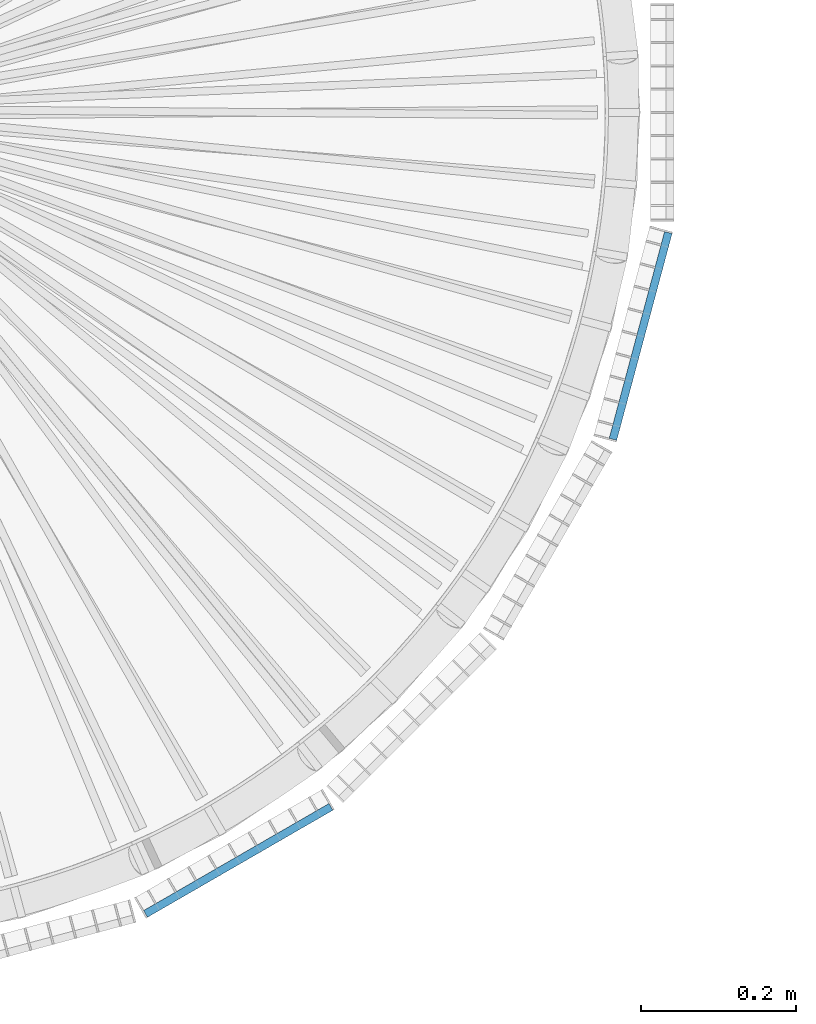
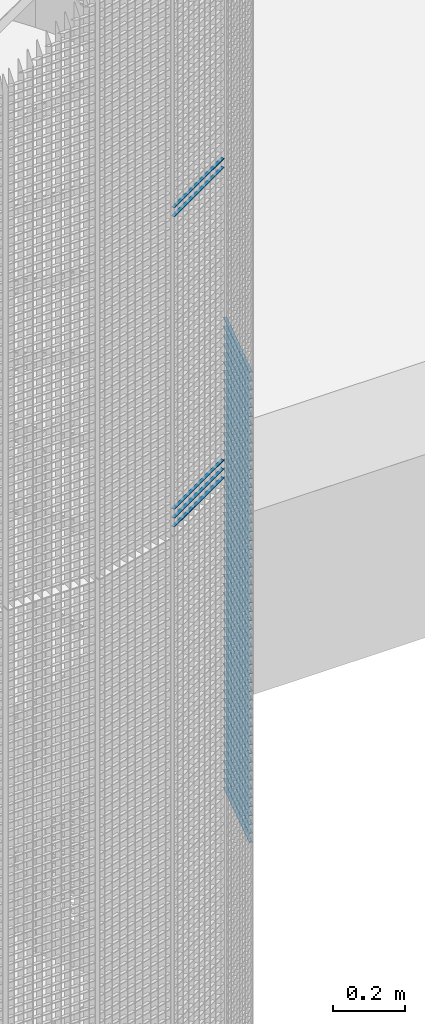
# One storey, part 250 of 1183: 59 beams, 2 elements without a shape of their own.
"""IFC2X3 building model written with IfcOpenShell, lengths in millimetres."""

from ifc_helpers import new_model, si_unit, frame, origin_with_axes, origin_2d_with_axis, place, context, subcontext, project, spatial, rectangle, extrude, material, type_object, element, aggregate, save


model = new_model("IFC2X3")

# Units and contexts
model_context = context("Model", 3, precision=1e-05, world=origin_with_axes())
body_context = subcontext(model_context, "Body", "Model", "MODEL_VIEW")
ifc_project = project(units=[si_unit("LENGTHUNIT", "METRE", prefix="MILLI"), si_unit("AREAUNIT", "SQUARE_METRE"), si_unit("VOLUMEUNIT", "CUBIC_METRE"), si_unit("MASSUNIT", "GRAM", prefix="KILO"), si_unit("TIMEUNIT", "SECOND"), si_unit("PLANEANGLEUNIT", "RADIAN"), si_unit("SOLIDANGLEUNIT", "STERADIAN"), si_unit("THERMODYNAMICTEMPERATUREUNIT", "DEGREE_CELSIUS"), si_unit("LUMINOUSINTENSITYUNIT", "LUMEN")], contexts=[model_context])

# Site, building, storey
site_placement = place(None, origin_with_axes())
site = spatial("IfcSite", under=ifc_project, at=site_placement, Name="Undefined", CompositionType="ELEMENT")
building_placement = place(site_placement, origin_with_axes())
building = spatial("IfcBuilding", under=site, at=building_placement, Name="Undefined", CompositionType="ELEMENT")
storey_placement = place(building_placement, origin_with_axes())
storey = spatial("IfcBuildingStorey", under=building, at=storey_placement, Name="Undefined", CompositionType="ELEMENT", Elevation=0.0)

# Assembly, beams
assembly_1_placement = place(storey_placement, origin_with_axes())
assembly_1 = element("IfcElementAssembly", 1, at=assembly_1_placement, inside=storey, Name="BORDURE", AssemblyPlace="NOTDEFINED", PredefinedType="NOTDEFINED")
ifc_material = material(Name="STEEL/S235JR")
beam_type = type_object("IfcBeamType", Name="PL2*10", PredefinedType="NOTDEFINED")
beam_1_placement = place(assembly_1_placement, frame((437.231955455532, -1033.29996828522, 10080.0), z_axis=(0.499999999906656, -0.866025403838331, 0.0), x_axis=(0.866025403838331, 0.499999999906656, 0.0)))
beam_1 = element("IfcBeam", 2, at=beam_1_placement, type_object=beam_type, material=ifc_material, Name="ENTRETOISE", context=body_context, shape_type="SweptSolid", body=[
    extrude(rectangle(XDim=2.0, YDim=10.0, at=origin_2d_with_axis()), frame((275.999999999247, 9.09494701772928e-13, 1.53210777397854e-14), z_axis=(-1.0, 0.0, 0.0), x_axis=(0.0, -1.0, 0.0)), (0.0, 0.0, 1.0), 276.0),
])
beam_2_placement = place(assembly_1_placement, frame((437.231955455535, -1033.29996828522, 9090.0), z_axis=(0.499999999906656, -0.866025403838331, 0.0), x_axis=(0.866025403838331, 0.499999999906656, 0.0)))
beam_2 = element("IfcBeam", 3, at=beam_2_placement, type_object=beam_type, material=ifc_material, Name="ENTRETOISE", context=body_context, shape_type="SweptSolid", body=[
    extrude(rectangle(XDim=2.0, YDim=10.0, at=origin_2d_with_axis()), frame((275.999999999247, 9.09494701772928e-13, 1.53210777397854e-14), z_axis=(-1.0, 0.0, 0.0), x_axis=(0.0, -1.0, 0.0)), (0.0, 0.0, 1.0), 276.0),
])
beam_3_placement = place(assembly_1_placement, frame((437.231955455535, -1033.29996828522, 9060.0), z_axis=(0.499999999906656, -0.866025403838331, 0.0), x_axis=(0.866025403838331, 0.499999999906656, 0.0)))
beam_3 = element("IfcBeam", 4, at=beam_3_placement, type_object=beam_type, material=ifc_material, Name="ENTRETOISE", context=body_context, shape_type="SweptSolid", body=[
    extrude(rectangle(XDim=2.0, YDim=10.0, at=origin_2d_with_axis()), frame((275.999999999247, 9.09494701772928e-13, 1.53210777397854e-14), z_axis=(-1.0, 0.0, 0.0), x_axis=(0.0, -1.0, 0.0)), (0.0, 0.0, 1.0), 276.0),
])
beam_4_placement = place(assembly_1_placement, frame((437.231955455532, -1033.29996828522, 10110.0), z_axis=(0.499999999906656, -0.866025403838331, 0.0), x_axis=(0.866025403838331, 0.499999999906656, 0.0)))
beam_4 = element("IfcBeam", 5, at=beam_4_placement, type_object=beam_type, material=ifc_material, Name="ENTRETOISE", context=body_context, shape_type="SweptSolid", body=[
    extrude(rectangle(XDim=2.0, YDim=10.0, at=origin_2d_with_axis()), frame((275.999999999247, 9.09494701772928e-13, 1.53210777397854e-14), z_axis=(-1.0, 0.0, 0.0), x_axis=(0.0, -1.0, 0.0)), (0.0, 0.0, 1.0), 276.0),
])
beam_5_placement = place(assembly_1_placement, frame((437.231955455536, -1033.29996828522, 9030.0), z_axis=(0.499999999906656, -0.866025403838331, 0.0), x_axis=(0.866025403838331, 0.499999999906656, 0.0)))
beam_5 = element("IfcBeam", 6, at=beam_5_placement, type_object=beam_type, material=ifc_material, Name="ENTRETOISE", context=body_context, shape_type="SweptSolid", body=[
    extrude(rectangle(XDim=2.0, YDim=10.0, at=origin_2d_with_axis()), frame((275.999999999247, 9.09494701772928e-13, 1.53210777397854e-14), z_axis=(-1.0, 0.0, 0.0), x_axis=(0.0, -1.0, 0.0)), (0.0, 0.0, 1.0), 276.0),
])
aggregate(assembly_1, [beam_1, beam_2, beam_3, beam_4, beam_5])

assembly_2_placement = place(storey_placement, origin_with_axes())
assembly_2 = element("IfcElementAssembly", 7, at=assembly_2_placement, inside=storey, Name="BORDURE", AssemblyPlace="NOTDEFINED", PredefinedType="NOTDEFINED")
beam_6_placement = place(assembly_2_placement, frame((1039.82309522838, -421.483733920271, 8970.0), z_axis=(0.965925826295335, -0.258819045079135, 0.0), x_axis=(0.258819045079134, 0.965925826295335, 0.0)))
beam_6 = element("IfcBeam", 8, at=beam_6_placement, type_object=beam_type, material=ifc_material, Name="ENTRETOISE", context=body_context, shape_type="SweptSolid", body=[
    extrude(rectangle(XDim=2.0, YDim=10.0, at=origin_2d_with_axis()), frame((275.999999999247, 9.09494701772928e-13, 1.53210777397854e-14), z_axis=(-1.0, 0.0, 0.0), x_axis=(0.0, -1.0, 0.0)), (0.0, 0.0, 1.0), 276.0),
])
beam_7_placement = place(assembly_2_placement, frame((1039.82309522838, -421.483733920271, 8940.0), z_axis=(0.965925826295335, -0.258819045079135, 0.0), x_axis=(0.258819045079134, 0.965925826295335, 0.0)))
beam_7 = element("IfcBeam", 9, at=beam_7_placement, type_object=beam_type, material=ifc_material, Name="ENTRETOISE", context=body_context, shape_type="SweptSolid", body=[
    extrude(rectangle(XDim=2.0, YDim=10.0, at=origin_2d_with_axis()), frame((275.999999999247, 9.09494701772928e-13, 1.53210777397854e-14), z_axis=(-1.0, 0.0, 0.0), x_axis=(0.0, -1.0, 0.0)), (0.0, 0.0, 1.0), 276.0),
])
beam_8_placement = place(assembly_2_placement, frame((1039.82309522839, -421.483733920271, 8910.0), z_axis=(0.965925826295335, -0.258819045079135, 0.0), x_axis=(0.258819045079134, 0.965925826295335, 0.0)))
beam_8 = element("IfcBeam", 10, at=beam_8_placement, type_object=beam_type, material=ifc_material, Name="ENTRETOISE", context=body_context, shape_type="SweptSolid", body=[
    extrude(rectangle(XDim=2.0, YDim=10.0, at=origin_2d_with_axis()), frame((275.999999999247, 9.09494701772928e-13, 1.53210777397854e-14), z_axis=(-1.0, 0.0, 0.0), x_axis=(0.0, -1.0, 0.0)), (0.0, 0.0, 1.0), 276.0),
])
beam_9_placement = place(assembly_2_placement, frame((1039.82309522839, -421.483733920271, 8880.0), z_axis=(0.965925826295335, -0.258819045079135, 0.0), x_axis=(0.258819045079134, 0.965925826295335, 0.0)))
beam_9 = element("IfcBeam", 11, at=beam_9_placement, type_object=beam_type, material=ifc_material, Name="ENTRETOISE", context=body_context, shape_type="SweptSolid", body=[
    extrude(rectangle(XDim=2.0, YDim=10.0, at=origin_2d_with_axis()), frame((275.999999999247, 9.09494701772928e-13, 1.53210777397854e-14), z_axis=(-1.0, 0.0, 0.0), x_axis=(0.0, -1.0, 0.0)), (0.0, 0.0, 1.0), 276.0),
])
beam_10_placement = place(assembly_2_placement, frame((1039.82309522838, -421.483733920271, 8850.0), z_axis=(0.965925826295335, -0.258819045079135, 0.0), x_axis=(0.258819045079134, 0.965925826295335, 0.0)))
beam_10 = element("IfcBeam", 12, at=beam_10_placement, type_object=beam_type, material=ifc_material, Name="ENTRETOISE", context=body_context, shape_type="SweptSolid", body=[
    extrude(rectangle(XDim=2.0, YDim=10.0, at=origin_2d_with_axis()), frame((275.999999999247, 9.09494701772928e-13, 1.53210777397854e-14), z_axis=(-1.0, 0.0, 0.0), x_axis=(0.0, -1.0, 0.0)), (0.0, 0.0, 1.0), 276.0),
])
beam_11_placement = place(assembly_2_placement, frame((1039.82309522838, -421.483733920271, 8820.0), z_axis=(0.965925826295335, -0.258819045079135, 0.0), x_axis=(0.258819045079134, 0.965925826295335, 0.0)))
beam_11 = element("IfcBeam", 13, at=beam_11_placement, type_object=beam_type, material=ifc_material, Name="ENTRETOISE", context=body_context, shape_type="SweptSolid", body=[
    extrude(rectangle(XDim=2.0, YDim=10.0, at=origin_2d_with_axis()), frame((275.999999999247, 9.09494701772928e-13, 1.53210777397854e-14), z_axis=(-1.0, 0.0, 0.0), x_axis=(0.0, -1.0, 0.0)), (0.0, 0.0, 1.0), 276.0),
])
beam_12_placement = place(assembly_2_placement, frame((1039.82309522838, -421.483733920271, 8790.0), z_axis=(0.965925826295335, -0.258819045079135, 0.0), x_axis=(0.258819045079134, 0.965925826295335, 0.0)))
beam_12 = element("IfcBeam", 14, at=beam_12_placement, type_object=beam_type, material=ifc_material, Name="ENTRETOISE", context=body_context, shape_type="SweptSolid", body=[
    extrude(rectangle(XDim=2.0, YDim=10.0, at=origin_2d_with_axis()), frame((275.999999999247, 9.09494701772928e-13, 1.53210777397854e-14), z_axis=(-1.0, 0.0, 0.0), x_axis=(0.0, -1.0, 0.0)), (0.0, 0.0, 1.0), 276.0),
])
beam_13_placement = place(assembly_2_placement, frame((1039.82309522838, -421.483733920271, 8760.0), z_axis=(0.965925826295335, -0.258819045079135, 0.0), x_axis=(0.258819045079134, 0.965925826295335, 0.0)))
beam_13 = element("IfcBeam", 15, at=beam_13_placement, type_object=beam_type, material=ifc_material, Name="ENTRETOISE", context=body_context, shape_type="SweptSolid", body=[
    extrude(rectangle(XDim=2.0, YDim=10.0, at=origin_2d_with_axis()), frame((275.999999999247, 9.09494701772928e-13, 1.53210777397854e-14), z_axis=(-1.0, 0.0, 0.0), x_axis=(0.0, -1.0, 0.0)), (0.0, 0.0, 1.0), 276.0),
])
beam_14_placement = place(assembly_2_placement, frame((1039.82309522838, -421.48373392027, 8730.0), z_axis=(0.965925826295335, -0.258819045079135, 0.0), x_axis=(0.258819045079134, 0.965925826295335, 0.0)))
beam_14 = element("IfcBeam", 16, at=beam_14_placement, type_object=beam_type, material=ifc_material, Name="ENTRETOISE", context=body_context, shape_type="SweptSolid", body=[
    extrude(rectangle(XDim=2.0, YDim=10.0, at=origin_2d_with_axis()), frame((275.999999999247, 9.09494701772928e-13, 1.53210777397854e-14), z_axis=(-1.0, 0.0, 0.0), x_axis=(0.0, -1.0, 0.0)), (0.0, 0.0, 1.0), 276.0),
])
beam_15_placement = place(assembly_2_placement, frame((1039.82309522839, -421.48373392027, 8700.0), z_axis=(0.965925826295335, -0.258819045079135, 0.0), x_axis=(0.258819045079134, 0.965925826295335, 0.0)))
beam_15 = element("IfcBeam", 17, at=beam_15_placement, type_object=beam_type, material=ifc_material, Name="ENTRETOISE", context=body_context, shape_type="SweptSolid", body=[
    extrude(rectangle(XDim=2.0, YDim=10.0, at=origin_2d_with_axis()), frame((275.999999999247, 9.09494701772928e-13, 1.53210777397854e-14), z_axis=(-1.0, 0.0, 0.0), x_axis=(0.0, -1.0, 0.0)), (0.0, 0.0, 1.0), 276.0),
])
beam_16_placement = place(assembly_2_placement, frame((1039.82309522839, -421.48373392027, 8670.0), z_axis=(0.965925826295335, -0.258819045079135, 0.0), x_axis=(0.258819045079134, 0.965925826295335, 0.0)))
beam_16 = element("IfcBeam", 18, at=beam_16_placement, type_object=beam_type, material=ifc_material, Name="ENTRETOISE", context=body_context, shape_type="SweptSolid", body=[
    extrude(rectangle(XDim=2.0, YDim=10.0, at=origin_2d_with_axis()), frame((275.999999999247, 9.09494701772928e-13, 1.53210777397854e-14), z_axis=(-1.0, 0.0, 0.0), x_axis=(0.0, -1.0, 0.0)), (0.0, 0.0, 1.0), 276.0),
])
beam_17_placement = place(assembly_2_placement, frame((1039.82309522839, -421.48373392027, 8640.0), z_axis=(0.965925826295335, -0.258819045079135, 0.0), x_axis=(0.258819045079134, 0.965925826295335, 0.0)))
beam_17 = element("IfcBeam", 19, at=beam_17_placement, type_object=beam_type, material=ifc_material, Name="ENTRETOISE", context=body_context, shape_type="SweptSolid", body=[
    extrude(rectangle(XDim=2.0, YDim=10.0, at=origin_2d_with_axis()), frame((275.999999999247, 9.09494701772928e-13, 1.53210777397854e-14), z_axis=(-1.0, 0.0, 0.0), x_axis=(0.0, -1.0, 0.0)), (0.0, 0.0, 1.0), 276.0),
])
beam_18_placement = place(assembly_2_placement, frame((1039.82309522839, -421.48373392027, 8610.0), z_axis=(0.965925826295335, -0.258819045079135, 0.0), x_axis=(0.258819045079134, 0.965925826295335, 0.0)))
beam_18 = element("IfcBeam", 20, at=beam_18_placement, type_object=beam_type, material=ifc_material, Name="ENTRETOISE", context=body_context, shape_type="SweptSolid", body=[
    extrude(rectangle(XDim=2.0, YDim=10.0, at=origin_2d_with_axis()), frame((275.999999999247, 9.09494701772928e-13, 1.53210777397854e-14), z_axis=(-1.0, 0.0, 0.0), x_axis=(0.0, -1.0, 0.0)), (0.0, 0.0, 1.0), 276.0),
])
beam_19_placement = place(assembly_2_placement, frame((1039.82309522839, -421.48373392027, 8580.0), z_axis=(0.965925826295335, -0.258819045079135, 0.0), x_axis=(0.258819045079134, 0.965925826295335, 0.0)))
beam_19 = element("IfcBeam", 21, at=beam_19_placement, type_object=beam_type, material=ifc_material, Name="ENTRETOISE", context=body_context, shape_type="SweptSolid", body=[
    extrude(rectangle(XDim=2.0, YDim=10.0, at=origin_2d_with_axis()), frame((275.999999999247, 9.09494701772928e-13, 1.53210777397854e-14), z_axis=(-1.0, 0.0, 0.0), x_axis=(0.0, -1.0, 0.0)), (0.0, 0.0, 1.0), 276.0),
])
beam_20_placement = place(assembly_2_placement, frame((1039.82309522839, -421.48373392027, 8550.0), z_axis=(0.965925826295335, -0.258819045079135, 0.0), x_axis=(0.258819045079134, 0.965925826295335, 0.0)))
beam_20 = element("IfcBeam", 22, at=beam_20_placement, type_object=beam_type, material=ifc_material, Name="ENTRETOISE", context=body_context, shape_type="SweptSolid", body=[
    extrude(rectangle(XDim=2.0, YDim=10.0, at=origin_2d_with_axis()), frame((275.999999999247, 9.09494701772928e-13, 1.53210777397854e-14), z_axis=(-1.0, 0.0, 0.0), x_axis=(0.0, -1.0, 0.0)), (0.0, 0.0, 1.0), 276.0),
])
beam_21_placement = place(assembly_2_placement, frame((1039.82309522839, -421.48373392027, 8520.0), z_axis=(0.965925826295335, -0.258819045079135, 0.0), x_axis=(0.258819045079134, 0.965925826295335, 0.0)))
beam_21 = element("IfcBeam", 23, at=beam_21_placement, type_object=beam_type, material=ifc_material, Name="ENTRETOISE", context=body_context, shape_type="SweptSolid", body=[
    extrude(rectangle(XDim=2.0, YDim=10.0, at=origin_2d_with_axis()), frame((275.999999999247, 9.09494701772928e-13, 1.53210777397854e-14), z_axis=(-1.0, 0.0, 0.0), x_axis=(0.0, -1.0, 0.0)), (0.0, 0.0, 1.0), 276.0),
])
beam_22_placement = place(assembly_2_placement, frame((1039.82309522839, -421.48373392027, 8490.0), z_axis=(0.965925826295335, -0.258819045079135, 0.0), x_axis=(0.258819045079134, 0.965925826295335, 0.0)))
beam_22 = element("IfcBeam", 24, at=beam_22_placement, type_object=beam_type, material=ifc_material, Name="ENTRETOISE", context=body_context, shape_type="SweptSolid", body=[
    extrude(rectangle(XDim=2.0, YDim=10.0, at=origin_2d_with_axis()), frame((275.999999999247, 9.09494701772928e-13, 1.53210777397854e-14), z_axis=(-1.0, 0.0, 0.0), x_axis=(0.0, -1.0, 0.0)), (0.0, 0.0, 1.0), 276.0),
])
beam_23_placement = place(assembly_2_placement, frame((1039.82309522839, -421.483733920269, 8460.0), z_axis=(0.965925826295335, -0.258819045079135, 0.0), x_axis=(0.258819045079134, 0.965925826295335, 0.0)))
beam_23 = element("IfcBeam", 25, at=beam_23_placement, type_object=beam_type, material=ifc_material, Name="ENTRETOISE", context=body_context, shape_type="SweptSolid", body=[
    extrude(rectangle(XDim=2.0, YDim=10.0, at=origin_2d_with_axis()), frame((275.999999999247, 9.09494701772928e-13, 1.53210777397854e-14), z_axis=(-1.0, 0.0, 0.0), x_axis=(0.0, -1.0, 0.0)), (0.0, 0.0, 1.0), 276.0),
])
beam_24_placement = place(assembly_2_placement, frame((1039.82309522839, -421.483733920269, 8430.0), z_axis=(0.965925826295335, -0.258819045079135, 0.0), x_axis=(0.258819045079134, 0.965925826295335, 0.0)))
beam_24 = element("IfcBeam", 26, at=beam_24_placement, type_object=beam_type, material=ifc_material, Name="ENTRETOISE", context=body_context, shape_type="SweptSolid", body=[
    extrude(rectangle(XDim=2.0, YDim=10.0, at=origin_2d_with_axis()), frame((275.999999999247, 9.09494701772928e-13, 1.53210777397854e-14), z_axis=(-1.0, 0.0, 0.0), x_axis=(0.0, -1.0, 0.0)), (0.0, 0.0, 1.0), 276.0),
])
beam_25_placement = place(assembly_2_placement, frame((1039.82309522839, -421.483733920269, 8400.0), z_axis=(0.965925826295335, -0.258819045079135, 0.0), x_axis=(0.258819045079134, 0.965925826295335, 0.0)))
beam_25 = element("IfcBeam", 27, at=beam_25_placement, type_object=beam_type, material=ifc_material, Name="ENTRETOISE", context=body_context, shape_type="SweptSolid", body=[
    extrude(rectangle(XDim=2.0, YDim=10.0, at=origin_2d_with_axis()), frame((275.999999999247, 9.09494701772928e-13, 1.53210777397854e-14), z_axis=(-1.0, 0.0, 0.0), x_axis=(0.0, -1.0, 0.0)), (0.0, 0.0, 1.0), 276.0),
])
beam_26_placement = place(assembly_2_placement, frame((1039.82309522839, -421.483733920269, 8370.0), z_axis=(0.965925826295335, -0.258819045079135, 0.0), x_axis=(0.258819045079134, 0.965925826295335, 0.0)))
beam_26 = element("IfcBeam", 28, at=beam_26_placement, type_object=beam_type, material=ifc_material, Name="ENTRETOISE", context=body_context, shape_type="SweptSolid", body=[
    extrude(rectangle(XDim=2.0, YDim=10.0, at=origin_2d_with_axis()), frame((275.999999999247, 9.09494701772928e-13, 1.53210777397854e-14), z_axis=(-1.0, 0.0, 0.0), x_axis=(0.0, -1.0, 0.0)), (0.0, 0.0, 1.0), 276.0),
])
beam_27_placement = place(assembly_2_placement, frame((1039.82309522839, -421.483733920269, 8340.0), z_axis=(0.965925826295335, -0.258819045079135, 0.0), x_axis=(0.258819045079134, 0.965925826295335, 0.0)))
beam_27 = element("IfcBeam", 29, at=beam_27_placement, type_object=beam_type, material=ifc_material, Name="ENTRETOISE", context=body_context, shape_type="SweptSolid", body=[
    extrude(rectangle(XDim=2.0, YDim=10.0, at=origin_2d_with_axis()), frame((275.999999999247, 9.09494701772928e-13, 1.53210777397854e-14), z_axis=(-1.0, 0.0, 0.0), x_axis=(0.0, -1.0, 0.0)), (0.0, 0.0, 1.0), 276.0),
])
beam_28_placement = place(assembly_2_placement, frame((1039.82309522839, -421.483733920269, 8310.0), z_axis=(0.965925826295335, -0.258819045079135, 0.0), x_axis=(0.258819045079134, 0.965925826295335, 0.0)))
beam_28 = element("IfcBeam", 30, at=beam_28_placement, type_object=beam_type, material=ifc_material, Name="ENTRETOISE", context=body_context, shape_type="SweptSolid", body=[
    extrude(rectangle(XDim=2.0, YDim=10.0, at=origin_2d_with_axis()), frame((275.999999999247, 9.09494701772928e-13, 1.53210777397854e-14), z_axis=(-1.0, 0.0, 0.0), x_axis=(0.0, -1.0, 0.0)), (0.0, 0.0, 1.0), 276.0),
])
beam_29_placement = place(assembly_2_placement, frame((1039.82309522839, -421.483733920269, 8280.0), z_axis=(0.965925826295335, -0.258819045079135, 0.0), x_axis=(0.258819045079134, 0.965925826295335, 0.0)))
beam_29 = element("IfcBeam", 31, at=beam_29_placement, type_object=beam_type, material=ifc_material, Name="ENTRETOISE", context=body_context, shape_type="SweptSolid", body=[
    extrude(rectangle(XDim=2.0, YDim=10.0, at=origin_2d_with_axis()), frame((275.999999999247, 9.09494701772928e-13, 1.53210777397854e-14), z_axis=(-1.0, 0.0, 0.0), x_axis=(0.0, -1.0, 0.0)), (0.0, 0.0, 1.0), 276.0),
])
beam_30_placement = place(assembly_2_placement, frame((1039.82309522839, -421.483733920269, 8250.0), z_axis=(0.965925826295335, -0.258819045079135, 0.0), x_axis=(0.258819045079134, 0.965925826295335, 0.0)))
beam_30 = element("IfcBeam", 32, at=beam_30_placement, type_object=beam_type, material=ifc_material, Name="ENTRETOISE", context=body_context, shape_type="SweptSolid", body=[
    extrude(rectangle(XDim=2.0, YDim=10.0, at=origin_2d_with_axis()), frame((275.999999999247, 9.09494701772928e-13, 1.53210777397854e-14), z_axis=(-1.0, 0.0, 0.0), x_axis=(0.0, -1.0, 0.0)), (0.0, 0.0, 1.0), 276.0),
])
beam_31_placement = place(assembly_2_placement, frame((1039.82309522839, -421.483733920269, 8220.0), z_axis=(0.965925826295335, -0.258819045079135, 0.0), x_axis=(0.258819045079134, 0.965925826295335, 0.0)))
beam_31 = element("IfcBeam", 33, at=beam_31_placement, type_object=beam_type, material=ifc_material, Name="ENTRETOISE", context=body_context, shape_type="SweptSolid", body=[
    extrude(rectangle(XDim=2.0, YDim=10.0, at=origin_2d_with_axis()), frame((275.999999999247, 9.09494701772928e-13, 1.53210777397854e-14), z_axis=(-1.0, 0.0, 0.0), x_axis=(0.0, -1.0, 0.0)), (0.0, 0.0, 1.0), 276.0),
])
beam_32_placement = place(assembly_2_placement, frame((1039.82309522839, -421.483733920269, 8190.0), z_axis=(0.965925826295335, -0.258819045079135, 0.0), x_axis=(0.258819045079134, 0.965925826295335, 0.0)))
beam_32 = element("IfcBeam", 34, at=beam_32_placement, type_object=beam_type, material=ifc_material, Name="ENTRETOISE", context=body_context, shape_type="SweptSolid", body=[
    extrude(rectangle(XDim=2.0, YDim=10.0, at=origin_2d_with_axis()), frame((275.999999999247, 9.09494701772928e-13, 1.53210777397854e-14), z_axis=(-1.0, 0.0, 0.0), x_axis=(0.0, -1.0, 0.0)), (0.0, 0.0, 1.0), 276.0),
])
beam_33_placement = place(assembly_2_placement, frame((1039.82309522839, -421.483733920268, 8160.0), z_axis=(0.965925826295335, -0.258819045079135, 0.0), x_axis=(0.258819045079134, 0.965925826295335, 0.0)))
beam_33 = element("IfcBeam", 35, at=beam_33_placement, type_object=beam_type, material=ifc_material, Name="ENTRETOISE", context=body_context, shape_type="SweptSolid", body=[
    extrude(rectangle(XDim=2.0, YDim=10.0, at=origin_2d_with_axis()), frame((275.999999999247, 9.09494701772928e-13, 1.53210777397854e-14), z_axis=(-1.0, 0.0, 0.0), x_axis=(0.0, -1.0, 0.0)), (0.0, 0.0, 1.0), 276.0),
])
beam_34_placement = place(assembly_2_placement, frame((1039.82309522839, -421.483733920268, 8130.0), z_axis=(0.965925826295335, -0.258819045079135, 0.0), x_axis=(0.258819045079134, 0.965925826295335, 0.0)))
beam_34 = element("IfcBeam", 36, at=beam_34_placement, type_object=beam_type, material=ifc_material, Name="ENTRETOISE", context=body_context, shape_type="SweptSolid", body=[
    extrude(rectangle(XDim=2.0, YDim=10.0, at=origin_2d_with_axis()), frame((275.999999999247, 9.09494701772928e-13, 1.53210777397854e-14), z_axis=(-1.0, 0.0, 0.0), x_axis=(0.0, -1.0, 0.0)), (0.0, 0.0, 1.0), 276.0),
])
beam_35_placement = place(assembly_2_placement, frame((1039.82309522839, -421.483733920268, 8100.0), z_axis=(0.965925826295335, -0.258819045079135, 0.0), x_axis=(0.258819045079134, 0.965925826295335, 0.0)))
beam_35 = element("IfcBeam", 37, at=beam_35_placement, type_object=beam_type, material=ifc_material, Name="ENTRETOISE", context=body_context, shape_type="SweptSolid", body=[
    extrude(rectangle(XDim=2.0, YDim=10.0, at=origin_2d_with_axis()), frame((275.999999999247, 9.09494701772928e-13, 1.53210777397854e-14), z_axis=(-1.0, 0.0, 0.0), x_axis=(0.0, -1.0, 0.0)), (0.0, 0.0, 1.0), 276.0),
])
beam_36_placement = place(assembly_2_placement, frame((1039.82309522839, -421.483733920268, 8070.0), z_axis=(0.965925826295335, -0.258819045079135, 0.0), x_axis=(0.258819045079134, 0.965925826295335, 0.0)))
beam_36 = element("IfcBeam", 38, at=beam_36_placement, type_object=beam_type, material=ifc_material, Name="ENTRETOISE", context=body_context, shape_type="SweptSolid", body=[
    extrude(rectangle(XDim=2.0, YDim=10.0, at=origin_2d_with_axis()), frame((275.999999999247, 9.09494701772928e-13, 1.53210777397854e-14), z_axis=(-1.0, 0.0, 0.0), x_axis=(0.0, -1.0, 0.0)), (0.0, 0.0, 1.0), 276.0),
])
beam_37_placement = place(assembly_2_placement, frame((1039.82309522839, -421.483733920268, 8040.0), z_axis=(0.965925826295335, -0.258819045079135, 0.0), x_axis=(0.258819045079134, 0.965925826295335, 0.0)))
beam_37 = element("IfcBeam", 39, at=beam_37_placement, type_object=beam_type, material=ifc_material, Name="ENTRETOISE", context=body_context, shape_type="SweptSolid", body=[
    extrude(rectangle(XDim=2.0, YDim=10.0, at=origin_2d_with_axis()), frame((275.999999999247, 9.09494701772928e-13, 1.53210777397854e-14), z_axis=(-1.0, 0.0, 0.0), x_axis=(0.0, -1.0, 0.0)), (0.0, 0.0, 1.0), 276.0),
])
beam_38_placement = place(assembly_2_placement, frame((1039.82309522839, -421.483733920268, 8010.0), z_axis=(0.965925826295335, -0.258819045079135, 0.0), x_axis=(0.258819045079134, 0.965925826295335, 0.0)))
beam_38 = element("IfcBeam", 40, at=beam_38_placement, type_object=beam_type, material=ifc_material, Name="ENTRETOISE", context=body_context, shape_type="SweptSolid", body=[
    extrude(rectangle(XDim=2.0, YDim=10.0, at=origin_2d_with_axis()), frame((275.999999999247, 9.09494701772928e-13, 1.53210777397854e-14), z_axis=(-1.0, 0.0, 0.0), x_axis=(0.0, -1.0, 0.0)), (0.0, 0.0, 1.0), 276.0),
])
beam_39_placement = place(assembly_2_placement, frame((1039.82309522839, -421.483733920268, 7980.0), z_axis=(0.965925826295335, -0.258819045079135, 0.0), x_axis=(0.258819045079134, 0.965925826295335, 0.0)))
beam_39 = element("IfcBeam", 41, at=beam_39_placement, type_object=beam_type, material=ifc_material, Name="ENTRETOISE", context=body_context, shape_type="SweptSolid", body=[
    extrude(rectangle(XDim=2.0, YDim=10.0, at=origin_2d_with_axis()), frame((275.999999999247, 9.09494701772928e-13, 1.53210777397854e-14), z_axis=(-1.0, 0.0, 0.0), x_axis=(0.0, -1.0, 0.0)), (0.0, 0.0, 1.0), 276.0),
])
beam_40_placement = place(assembly_2_placement, frame((1039.82309522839, -421.483733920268, 7950.0), z_axis=(0.965925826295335, -0.258819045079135, 0.0), x_axis=(0.258819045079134, 0.965925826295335, 0.0)))
beam_40 = element("IfcBeam", 42, at=beam_40_placement, type_object=beam_type, material=ifc_material, Name="ENTRETOISE", context=body_context, shape_type="SweptSolid", body=[
    extrude(rectangle(XDim=2.0, YDim=10.0, at=origin_2d_with_axis()), frame((275.999999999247, 9.09494701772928e-13, 1.53210777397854e-14), z_axis=(-1.0, 0.0, 0.0), x_axis=(0.0, -1.0, 0.0)), (0.0, 0.0, 1.0), 276.0),
])
beam_41_placement = place(assembly_2_placement, frame((1039.82309522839, -421.483733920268, 7920.0), z_axis=(0.965925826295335, -0.258819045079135, 0.0), x_axis=(0.258819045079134, 0.965925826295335, 0.0)))
beam_41 = element("IfcBeam", 43, at=beam_41_placement, type_object=beam_type, material=ifc_material, Name="ENTRETOISE", context=body_context, shape_type="SweptSolid", body=[
    extrude(rectangle(XDim=2.0, YDim=10.0, at=origin_2d_with_axis()), frame((275.999999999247, 9.09494701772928e-13, 1.53210777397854e-14), z_axis=(-1.0, 0.0, 0.0), x_axis=(0.0, -1.0, 0.0)), (0.0, 0.0, 1.0), 276.0),
])
beam_42_placement = place(assembly_2_placement, frame((1039.82309522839, -421.483733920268, 7890.0), z_axis=(0.965925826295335, -0.258819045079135, 0.0), x_axis=(0.258819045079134, 0.965925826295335, 0.0)))
beam_42 = element("IfcBeam", 44, at=beam_42_placement, type_object=beam_type, material=ifc_material, Name="ENTRETOISE", context=body_context, shape_type="SweptSolid", body=[
    extrude(rectangle(XDim=2.0, YDim=10.0, at=origin_2d_with_axis()), frame((275.999999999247, 9.09494701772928e-13, 1.53210777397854e-14), z_axis=(-1.0, 0.0, 0.0), x_axis=(0.0, -1.0, 0.0)), (0.0, 0.0, 1.0), 276.0),
])
beam_43_placement = place(assembly_2_placement, frame((1039.82309522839, -421.483733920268, 7860.0), z_axis=(0.965925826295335, -0.258819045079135, 0.0), x_axis=(0.258819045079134, 0.965925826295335, 0.0)))
beam_43 = element("IfcBeam", 45, at=beam_43_placement, type_object=beam_type, material=ifc_material, Name="ENTRETOISE", context=body_context, shape_type="SweptSolid", body=[
    extrude(rectangle(XDim=2.0, YDim=10.0, at=origin_2d_with_axis()), frame((275.999999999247, 9.09494701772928e-13, 1.53210777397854e-14), z_axis=(-1.0, 0.0, 0.0), x_axis=(0.0, -1.0, 0.0)), (0.0, 0.0, 1.0), 276.0),
])
beam_44_placement = place(assembly_2_placement, frame((1039.82309522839, -421.483733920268, 7830.0), z_axis=(0.965925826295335, -0.258819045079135, 0.0), x_axis=(0.258819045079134, 0.965925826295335, 0.0)))
beam_44 = element("IfcBeam", 46, at=beam_44_placement, type_object=beam_type, material=ifc_material, Name="ENTRETOISE", context=body_context, shape_type="SweptSolid", body=[
    extrude(rectangle(XDim=2.0, YDim=10.0, at=origin_2d_with_axis()), frame((275.999999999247, 9.09494701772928e-13, 1.53210777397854e-14), z_axis=(-1.0, 0.0, 0.0), x_axis=(0.0, -1.0, 0.0)), (0.0, 0.0, 1.0), 276.0),
])
beam_45_placement = place(assembly_2_placement, frame((1039.82309522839, -421.483733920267, 7800.0), z_axis=(0.965925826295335, -0.258819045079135, 0.0), x_axis=(0.258819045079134, 0.965925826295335, 0.0)))
beam_45 = element("IfcBeam", 47, at=beam_45_placement, type_object=beam_type, material=ifc_material, Name="ENTRETOISE", context=body_context, shape_type="SweptSolid", body=[
    extrude(rectangle(XDim=2.0, YDim=10.0, at=origin_2d_with_axis()), frame((275.999999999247, 9.09494701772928e-13, 1.53210777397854e-14), z_axis=(-1.0, 0.0, 0.0), x_axis=(0.0, -1.0, 0.0)), (0.0, 0.0, 1.0), 276.0),
])
beam_46_placement = place(assembly_2_placement, frame((1039.82309522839, -421.483733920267, 7770.0), z_axis=(0.965925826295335, -0.258819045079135, 0.0), x_axis=(0.258819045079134, 0.965925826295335, 0.0)))
beam_46 = element("IfcBeam", 48, at=beam_46_placement, type_object=beam_type, material=ifc_material, Name="ENTRETOISE", context=body_context, shape_type="SweptSolid", body=[
    extrude(rectangle(XDim=2.0, YDim=10.0, at=origin_2d_with_axis()), frame((275.999999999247, 9.09494701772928e-13, 1.53210777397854e-14), z_axis=(-1.0, 0.0, 0.0), x_axis=(0.0, -1.0, 0.0)), (0.0, 0.0, 1.0), 276.0),
])
beam_47_placement = place(assembly_2_placement, frame((1039.82309522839, -421.483733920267, 7740.0), z_axis=(0.965925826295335, -0.258819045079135, 0.0), x_axis=(0.258819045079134, 0.965925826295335, 0.0)))
beam_47 = element("IfcBeam", 49, at=beam_47_placement, type_object=beam_type, material=ifc_material, Name="ENTRETOISE", context=body_context, shape_type="SweptSolid", body=[
    extrude(rectangle(XDim=2.0, YDim=10.0, at=origin_2d_with_axis()), frame((275.999999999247, 9.09494701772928e-13, 1.53210777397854e-14), z_axis=(-1.0, 0.0, 0.0), x_axis=(0.0, -1.0, 0.0)), (0.0, 0.0, 1.0), 276.0),
])
beam_48_placement = place(assembly_2_placement, frame((1039.82309522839, -421.483733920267, 7710.0), z_axis=(0.965925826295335, -0.258819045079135, 0.0), x_axis=(0.258819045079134, 0.965925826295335, 0.0)))
beam_48 = element("IfcBeam", 50, at=beam_48_placement, type_object=beam_type, material=ifc_material, Name="ENTRETOISE", context=body_context, shape_type="SweptSolid", body=[
    extrude(rectangle(XDim=2.0, YDim=10.0, at=origin_2d_with_axis()), frame((275.999999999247, 9.09494701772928e-13, 1.53210777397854e-14), z_axis=(-1.0, 0.0, 0.0), x_axis=(0.0, -1.0, 0.0)), (0.0, 0.0, 1.0), 276.0),
])
beam_49_placement = place(assembly_2_placement, frame((1039.82309522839, -421.483733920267, 7680.0), z_axis=(0.965925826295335, -0.258819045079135, 0.0), x_axis=(0.258819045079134, 0.965925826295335, 0.0)))
beam_49 = element("IfcBeam", 51, at=beam_49_placement, type_object=beam_type, material=ifc_material, Name="ENTRETOISE", context=body_context, shape_type="SweptSolid", body=[
    extrude(rectangle(XDim=2.0, YDim=10.0, at=origin_2d_with_axis()), frame((275.999999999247, 9.09494701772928e-13, 1.53210777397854e-14), z_axis=(-1.0, 0.0, 0.0), x_axis=(0.0, -1.0, 0.0)), (0.0, 0.0, 1.0), 276.0),
])
beam_50_placement = place(assembly_2_placement, frame((1039.82309522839, -421.483733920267, 7650.0), z_axis=(0.965925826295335, -0.258819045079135, 0.0), x_axis=(0.258819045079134, 0.965925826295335, 0.0)))
beam_50 = element("IfcBeam", 52, at=beam_50_placement, type_object=beam_type, material=ifc_material, Name="ENTRETOISE", context=body_context, shape_type="SweptSolid", body=[
    extrude(rectangle(XDim=2.0, YDim=10.0, at=origin_2d_with_axis()), frame((275.999999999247, 9.09494701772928e-13, 1.53210777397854e-14), z_axis=(-1.0, 0.0, 0.0), x_axis=(0.0, -1.0, 0.0)), (0.0, 0.0, 1.0), 276.0),
])
beam_51_placement = place(assembly_2_placement, frame((1039.82309522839, -421.483733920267, 7620.0), z_axis=(0.965925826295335, -0.258819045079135, 0.0), x_axis=(0.258819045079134, 0.965925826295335, 0.0)))
beam_51 = element("IfcBeam", 53, at=beam_51_placement, type_object=beam_type, material=ifc_material, Name="ENTRETOISE", context=body_context, shape_type="SweptSolid", body=[
    extrude(rectangle(XDim=2.0, YDim=10.0, at=origin_2d_with_axis()), frame((275.999999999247, 9.09494701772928e-13, 1.53210777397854e-14), z_axis=(-1.0, 0.0, 0.0), x_axis=(0.0, -1.0, 0.0)), (0.0, 0.0, 1.0), 276.0),
])
beam_52_placement = place(assembly_2_placement, frame((1039.82309522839, -421.483733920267, 7590.0), z_axis=(0.965925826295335, -0.258819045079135, 0.0), x_axis=(0.258819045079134, 0.965925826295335, 0.0)))
beam_52 = element("IfcBeam", 54, at=beam_52_placement, type_object=beam_type, material=ifc_material, Name="ENTRETOISE", context=body_context, shape_type="SweptSolid", body=[
    extrude(rectangle(XDim=2.0, YDim=10.0, at=origin_2d_with_axis()), frame((275.999999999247, 9.09494701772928e-13, 1.53210777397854e-14), z_axis=(-1.0, 0.0, 0.0), x_axis=(0.0, -1.0, 0.0)), (0.0, 0.0, 1.0), 276.0),
])
beam_53_placement = place(assembly_2_placement, frame((1039.82309522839, -421.483733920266, 7560.0), z_axis=(0.965925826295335, -0.258819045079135, 0.0), x_axis=(0.258819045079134, 0.965925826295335, 0.0)))
beam_53 = element("IfcBeam", 55, at=beam_53_placement, type_object=beam_type, material=ifc_material, Name="ENTRETOISE", context=body_context, shape_type="SweptSolid", body=[
    extrude(rectangle(XDim=2.0, YDim=10.0, at=origin_2d_with_axis()), frame((275.999999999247, 9.09494701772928e-13, 1.53210777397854e-14), z_axis=(-1.0, 0.0, 0.0), x_axis=(0.0, -1.0, 0.0)), (0.0, 0.0, 1.0), 276.0),
])
beam_54_placement = place(assembly_2_placement, frame((1039.82309522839, -421.483733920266, 7530.0), z_axis=(0.965925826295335, -0.258819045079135, 0.0), x_axis=(0.258819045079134, 0.965925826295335, 0.0)))
beam_54 = element("IfcBeam", 56, at=beam_54_placement, type_object=beam_type, material=ifc_material, Name="ENTRETOISE", context=body_context, shape_type="SweptSolid", body=[
    extrude(rectangle(XDim=2.0, YDim=10.0, at=origin_2d_with_axis()), frame((275.999999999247, 9.09494701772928e-13, 1.53210777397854e-14), z_axis=(-1.0, 0.0, 0.0), x_axis=(0.0, -1.0, 0.0)), (0.0, 0.0, 1.0), 276.0),
])
beam_55_placement = place(assembly_2_placement, frame((1039.82309522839, -421.483733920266, 7500.0), z_axis=(0.965925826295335, -0.258819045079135, 0.0), x_axis=(0.258819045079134, 0.965925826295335, 0.0)))
beam_55 = element("IfcBeam", 57, at=beam_55_placement, type_object=beam_type, material=ifc_material, Name="ENTRETOISE", context=body_context, shape_type="SweptSolid", body=[
    extrude(rectangle(XDim=2.0, YDim=10.0, at=origin_2d_with_axis()), frame((275.999999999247, 9.09494701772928e-13, 1.53210777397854e-14), z_axis=(-1.0, 0.0, 0.0), x_axis=(0.0, -1.0, 0.0)), (0.0, 0.0, 1.0), 276.0),
])
beam_56_placement = place(assembly_2_placement, frame((1039.82309522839, -421.483733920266, 7470.0), z_axis=(0.965925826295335, -0.258819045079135, 0.0), x_axis=(0.258819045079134, 0.965925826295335, 0.0)))
beam_56 = element("IfcBeam", 58, at=beam_56_placement, type_object=beam_type, material=ifc_material, Name="ENTRETOISE", context=body_context, shape_type="SweptSolid", body=[
    extrude(rectangle(XDim=2.0, YDim=10.0, at=origin_2d_with_axis()), frame((275.999999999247, 9.09494701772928e-13, 1.53210777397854e-14), z_axis=(-1.0, 0.0, 0.0), x_axis=(0.0, -1.0, 0.0)), (0.0, 0.0, 1.0), 276.0),
])
beam_57_placement = place(assembly_2_placement, frame((1039.82309522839, -421.483733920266, 7440.0), z_axis=(0.965925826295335, -0.258819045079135, 0.0), x_axis=(0.258819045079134, 0.965925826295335, 0.0)))
beam_57 = element("IfcBeam", 59, at=beam_57_placement, type_object=beam_type, material=ifc_material, Name="ENTRETOISE", context=body_context, shape_type="SweptSolid", body=[
    extrude(rectangle(XDim=2.0, YDim=10.0, at=origin_2d_with_axis()), frame((275.999999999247, 9.09494701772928e-13, 1.53210777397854e-14), z_axis=(-1.0, 0.0, 0.0), x_axis=(0.0, -1.0, 0.0)), (0.0, 0.0, 1.0), 276.0),
])
beam_58_placement = place(assembly_2_placement, frame((1039.82309522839, -421.483733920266, 7410.0), z_axis=(0.965925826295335, -0.258819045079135, 0.0), x_axis=(0.258819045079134, 0.965925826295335, 0.0)))
beam_58 = element("IfcBeam", 60, at=beam_58_placement, type_object=beam_type, material=ifc_material, Name="ENTRETOISE", context=body_context, shape_type="SweptSolid", body=[
    extrude(rectangle(XDim=2.0, YDim=10.0, at=origin_2d_with_axis()), frame((275.999999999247, 9.09494701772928e-13, 1.53210777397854e-14), z_axis=(-1.0, 0.0, 0.0), x_axis=(0.0, -1.0, 0.0)), (0.0, 0.0, 1.0), 276.0),
])
beam_59_placement = place(assembly_2_placement, frame((1039.82309522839, -421.483733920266, 7380.0), z_axis=(0.965925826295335, -0.258819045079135, 0.0), x_axis=(0.258819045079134, 0.965925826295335, 0.0)))
beam_59 = element("IfcBeam", 61, at=beam_59_placement, type_object=beam_type, material=ifc_material, Name="ENTRETOISE", context=body_context, shape_type="SweptSolid", body=[
    extrude(rectangle(XDim=2.0, YDim=10.0, at=origin_2d_with_axis()), frame((275.999999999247, 9.09494701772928e-13, 1.53210777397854e-14), z_axis=(-1.0, 0.0, 0.0), x_axis=(0.0, -1.0, 0.0)), (0.0, 0.0, 1.0), 276.0),
])
aggregate(assembly_2, [beam_6, beam_7, beam_8, beam_9, beam_10, beam_11, beam_12, beam_13, beam_14, beam_15, beam_16, beam_17, beam_18, beam_19, beam_20, beam_21, beam_22, beam_23, beam_24, beam_25, beam_26, beam_27, beam_28, beam_29, beam_30, beam_31, beam_32, beam_33, beam_34, beam_35, beam_36, beam_37, beam_38, beam_39, beam_40, beam_41, beam_42, beam_43, beam_44, beam_45, beam_46, beam_47, beam_48, beam_49, beam_50, beam_51, beam_52, beam_53, beam_54, beam_55, beam_56, beam_57, beam_58, beam_59])

save(model, "model.ifc")
